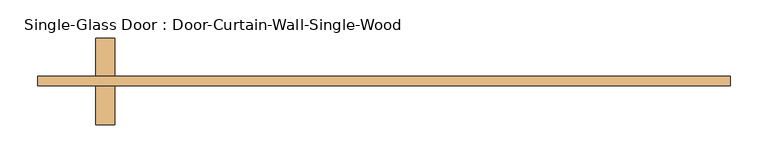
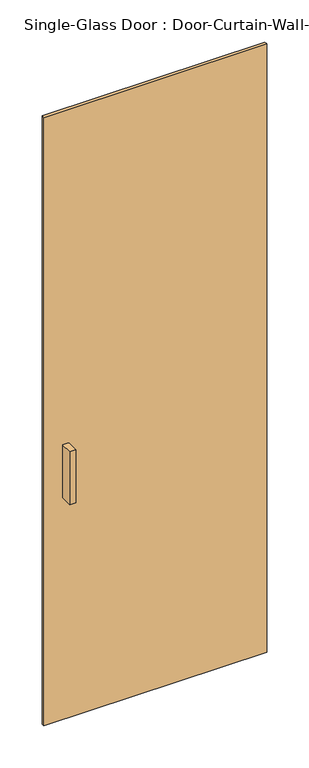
"""IFC4 building model written with IfcOpenShell, lengths in millimetres: door geometry, Single-Glass Door : Door-Curtain-Wall-Single-Wood."""

from ifc_helpers import new_model, si_unit, frame, origin, origin_with_axes, place, context, project, spatial, polyline, outline, extrude, source, transform, mapped, element, save


def single_glass_door_door_curtain_wall_single_wood_f8af9d99(model_context):
    return source(origin(), model_context, "Body", "SweptSolid", [
        extrude(outline(polyline([(457.2, -50.8), (-457.2, -50.8), (-457.2, -38.1), (457.2, -38.1), (457.2, -50.8)])), origin_with_axes(), (0.0, 0.0, 1.0), 2640.780647),
        extrude(outline(polyline([(-355.6, 12.7), (-355.6, -38.1), (-381.0, -38.1), (-381.0, 12.7), (-355.6, 12.7)])), frame((0.0, 0.0, 965.2), z_axis=(0.0, 0.0, 1.0), x_axis=(1.0, 0.0, 0.0)), (0.0, 0.0, 1.0), 228.6),
        extrude(outline(polyline([(-381.0, -101.6), (-381.0, -50.8), (-355.6, -50.8), (-355.6, -101.6), (-381.0, -101.6)])), frame((0.0, 0.0, 965.2), z_axis=(0.0, 0.0, 1.0), x_axis=(1.0, 0.0, 0.0)), (0.0, 0.0, 1.0), 228.6),
    ])


if __name__ == "__main__":
    model = new_model("IFC4")
    model_context = context("Model", 3, world=origin())
    ifc_project = project(units=[si_unit("LENGTHUNIT", "METRE", prefix="MILLI")], contexts=[model_context])
    site = spatial("IfcSite", under=ifc_project)
    building = spatial("IfcBuilding", under=site)
    placement = place(None, origin())
    single_glass_door_door_curtain_wall_single_wood_shape = single_glass_door_door_curtain_wall_single_wood_f8af9d99(model_context)
    element("IfcDoor", 1, ObjectType="Single-Glass Door : Door-Curtain-Wall-Single-Wood", at=placement, inside=building, context=model_context, shape_type="MappedRepresentation", body=[
        mapped(single_glass_door_door_curtain_wall_single_wood_shape, transform((0.0, 0.0, 0.0), x_axis=(1.0, 0.0, 0.0), y_axis=(0.0, 1.0, 0.0), z_axis=(0.0, 0.0, 1.0))),
    ])
    save(model, "model.ifc")
